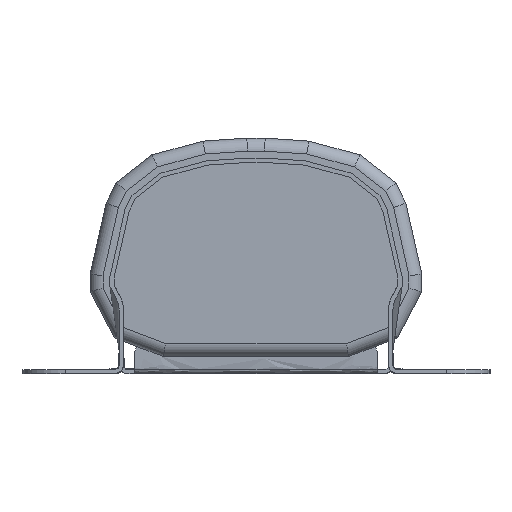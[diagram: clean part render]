
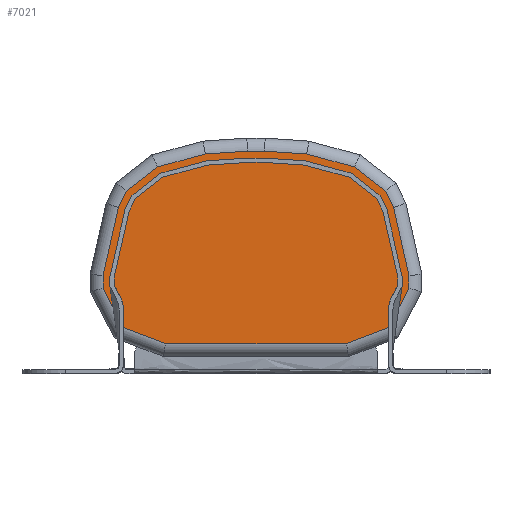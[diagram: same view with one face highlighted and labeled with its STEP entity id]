
A CAD part, left-side view. The second image highlights one B-rep face of the part: STEP entity #7021.
In plain terms, the highlighted planar face has unit normal (-1, 0, 0).
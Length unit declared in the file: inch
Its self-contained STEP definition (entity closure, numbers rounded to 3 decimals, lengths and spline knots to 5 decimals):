
#149 = LINE ( 'NONE', #11969, #13729 ) ;
#277 = VERTEX_POINT ( 'NONE', #6612 ) ;
#442 = VECTOR ( 'NONE', #6973, 39.37008 ) ;
#476 = VECTOR ( 'NONE', #3384, 39.37008 ) ;
#599 = VECTOR ( 'NONE', #13623, 39.37008 ) ;
#608 = CARTESIAN_POINT ( 'NONE',  ( -5.87598, -0.62503, 0.75579 ) ) ;
#618 = VERTEX_POINT ( 'NONE', #3447 ) ;
#942 = CARTESIAN_POINT ( 'NONE',  ( -5.87598, -0.58838, 0.83044 ) ) ;
#945 = VECTOR ( 'NONE', #12548, 39.37008 ) ;
#1011 = VERTEX_POINT ( 'NONE', #3502 ) ;
#1043 = VERTEX_POINT ( 'NONE', #3958 ) ;
#1069 = CARTESIAN_POINT ( 'NONE',  ( -5.87598, 0.03945, 1.01181 ) ) ;
#1125 = AXIS2_PLACEMENT_3D ( 'NONE', #4103, #11574, #5194 ) ;
#1499 = LINE ( 'NONE', #8761, #12572 ) ;
#1529 = ORIENTED_EDGE ( 'NONE', *, *, #7533, .F. ) ;
#2062 = VECTOR ( 'NONE', #5227, 39.37008 ) ;
#2063 = ORIENTED_EDGE ( 'NONE', *, *, #8441, .F. ) ;
#2277 = EDGE_CURVE ( 'NONE', #8513, #5234, #8156, .T. ) ;
#2516 = LINE ( 'NONE', #9280, #8262 ) ;
#2569 = EDGE_CURVE ( 'NONE', #277, #1011, #7667, .T. ) ;
#2647 = VECTOR ( 'NONE', #8229, 39.37008 ) ;
#2750 = CARTESIAN_POINT ( 'NONE',  ( -5.87598, -0.34107, 0.96888 ) ) ;
#2782 = EDGE_CURVE ( 'NONE', #6929, #13272, #149, .T. ) ;
#2801 = VERTEX_POINT ( 'NONE', #3345 ) ;
#3008 = PLANE ( 'NONE',  #1125 ) ;
#3258 = EDGE_CURVE ( 'NONE', #12526, #9553, #9781, .T. ) ;
#3345 = CARTESIAN_POINT ( 'NONE',  ( -5.87598, -0.44609, 0.94037 ) ) ;
#3366 = LINE ( 'NONE', #6872, #442 ) ;
#3384 = DIRECTION ( 'NONE',  ( 0., 0.935, -0.355 ) ) ;
#3391 = CARTESIAN_POINT ( 'NONE',  ( -5.87598, 0.69488, 0.38854 ) ) ;
#3402 = DIRECTION ( 'NONE',  ( 0., -1., 0. ) ) ;
#3421 = ORIENTED_EDGE ( 'NONE', *, *, #4417, .F. ) ;
#3423 = EDGE_CURVE ( 'NONE', #6635, #618, #5233, .T. ) ;
#3447 = CARTESIAN_POINT ( 'NONE',  ( -5.87598, -0.23037, 0.99893 ) ) ;
#3502 = CARTESIAN_POINT ( 'NONE',  ( -5.87598, 0.44609, 0.94037 ) ) ;
#3619 = VERTEX_POINT ( 'NONE', #4553 ) ;
#3667 = VERTEX_POINT ( 'NONE', #9637 ) ;
#3669 = LINE ( 'NONE', #10152, #9035 ) ;
#3758 = CARTESIAN_POINT ( 'NONE',  ( -5.87598, 0.69488, 0.41339 ) ) ;
#3781 = DIRECTION ( 'NONE',  ( 0., -0.441, -0.898 ) ) ;
#3823 = ORIENTED_EDGE ( 'NONE', *, *, #3997, .F. ) ;
#3888 = ORIENTED_EDGE ( 'NONE', *, *, #12115, .F. ) ;
#3898 = VECTOR ( 'NONE', #10235, 39.37008 ) ;
#3958 = CARTESIAN_POINT ( 'NONE',  ( -5.87598, 0.69488, 0.44618 ) ) ;
#3997 = EDGE_CURVE ( 'NONE', #5234, #8527, #8083, .T. ) ;
#4103 = CARTESIAN_POINT ( 'NONE',  ( -5.87598, -0.69488, 0.1378 ) ) ;
#4175 = CARTESIAN_POINT ( 'NONE',  ( -5.87598, 0.65992, 0.60117 ) ) ;
#4222 = CARTESIAN_POINT ( 'NONE',  ( -5.87598, -0.60522, 0.79615 ) ) ;
#4332 = ORIENTED_EDGE ( 'NONE', *, *, #3423, .F. ) ;
#4417 = EDGE_CURVE ( 'NONE', #3667, #277, #3669, .T. ) ;
#4449 = DIRECTION ( 'NONE',  ( 0., -0.998, 0.067 ) ) ;
#4503 = EDGE_CURVE ( 'NONE', #8236, #3619, #5889, .T. ) ;
#4553 = CARTESIAN_POINT ( 'NONE',  ( -5.87598, 0.60161, 0.21046 ) ) ;
#4711 = ORIENTED_EDGE ( 'NONE', *, *, #13595, .F. ) ;
#5162 = CARTESIAN_POINT ( 'NONE',  ( -5.87598, -0.69488, 0.41339 ) ) ;
#5194 = DIRECTION ( 'NONE',  ( 0., 0., 1. ) ) ;
#5227 = DIRECTION ( 'NONE',  ( 0., 0., -1. ) ) ;
#5233 = LINE ( 'NONE', #13223, #10891 ) ;
#5234 = VERTEX_POINT ( 'NONE', #12415 ) ;
#5255 = ORIENTED_EDGE ( 'NONE', *, *, #2277, .F. ) ;
#5390 = EDGE_LOOP ( 'NONE', ( #8227, #1529, #13517, #3823, #5255, #9919, #13301, #12085, #4711, #4332, #12256, #8036, #2063, #7243, #3421, #9745, #9950, #3888 ) ) ;
#5516 = FACE_OUTER_BOUND ( 'NONE', #5390, .T. ) ;
#5889 = LINE ( 'NONE', #7027, #2647 ) ;
#6050 = CARTESIAN_POINT ( 'NONE',  ( -5.87598, -0.03944, 1.01181 ) ) ;
#6612 = CARTESIAN_POINT ( 'NONE',  ( -5.87598, 0.58838, 0.83044 ) ) ;
#6618 = VECTOR ( 'NONE', #13733, 39.37008 ) ;
#6635 = VERTEX_POINT ( 'NONE', #6050 ) ;
#6872 = CARTESIAN_POINT ( 'NONE',  ( -5.87598, -0.65992, 0.60117 ) ) ;
#6913 = VERTEX_POINT ( 'NONE', #3391 ) ;
#6929 = VERTEX_POINT ( 'NONE', #13030 ) ;
#6973 = DIRECTION ( 'NONE',  ( 0., -0.22, -0.975 ) ) ;
#7021 = ADVANCED_FACE ( 'NONE', ( #5516 ), #3008, .T. ) ;
#7027 = CARTESIAN_POINT ( 'NONE',  ( -5.87598, 0.51143, 0.17618 ) ) ;
#7031 = DIRECTION ( 'NONE',  ( 0., 0., 1. ) ) ;
#7243 = ORIENTED_EDGE ( 'NONE', *, *, #2569, .F. ) ;
#7408 = EDGE_CURVE ( 'NONE', #6913, #1043, #9917, .T. ) ;
#7533 = EDGE_CURVE ( 'NONE', #10892, #8236, #2516, .T. ) ;
#7667 = LINE ( 'NONE', #12270, #12938 ) ;
#8036 = ORIENTED_EDGE ( 'NONE', *, *, #2782, .F. ) ;
#8083 = LINE ( 'NONE', #13755, #11199 ) ;
#8156 = LINE ( 'NONE', #5162, #2062 ) ;
#8227 = ORIENTED_EDGE ( 'NONE', *, *, #4503, .F. ) ;
#8229 = DIRECTION ( 'NONE',  ( 0., 0.935, 0.355 ) ) ;
#8236 = VERTEX_POINT ( 'NONE', #11147 ) ;
#8262 = VECTOR ( 'NONE', #10334, 39.37008 ) ;
#8264 = EDGE_CURVE ( 'NONE', #9553, #8513, #3366, .T. ) ;
#8434 = CARTESIAN_POINT ( 'NONE',  ( -5.87598, -0.69488, 0.44618 ) ) ;
#8441 = EDGE_CURVE ( 'NONE', #1011, #6929, #9560, .T. ) ;
#8482 = EDGE_CURVE ( 'NONE', #2801, #12526, #12047, .T. ) ;
#8513 = VERTEX_POINT ( 'NONE', #8434 ) ;
#8527 = VERTEX_POINT ( 'NONE', #9483 ) ;
#8742 = CARTESIAN_POINT ( 'NONE',  ( -5.87598, -0.51143, 0.17618 ) ) ;
#8761 = CARTESIAN_POINT ( 'NONE',  ( -5.87598, 0., 1.01181 ) ) ;
#9035 = VECTOR ( 'NONE', #11227, 39.37008 ) ;
#9237 = VECTOR ( 'NONE', #7031, 39.37008 ) ;
#9263 = LINE ( 'NONE', #13877, #11774 ) ;
#9280 = CARTESIAN_POINT ( 'NONE',  ( -5.87598, 0., 0.1378 ) ) ;
#9483 = CARTESIAN_POINT ( 'NONE',  ( -5.87598, -0.60161, 0.21046 ) ) ;
#9553 = VERTEX_POINT ( 'NONE', #608 ) ;
#9560 = LINE ( 'NONE', #11479, #945 ) ;
#9637 = CARTESIAN_POINT ( 'NONE',  ( -5.87598, 0.62503, 0.75579 ) ) ;
#9745 = ORIENTED_EDGE ( 'NONE', *, *, #13824, .F. ) ;
#9764 = LINE ( 'NONE', #4175, #6618 ) ;
#9781 = LINE ( 'NONE', #4222, #12258 ) ;
#9917 = LINE ( 'NONE', #3758, #9237 ) ;
#9919 = ORIENTED_EDGE ( 'NONE', *, *, #8264, .F. ) ;
#9950 = ORIENTED_EDGE ( 'NONE', *, *, #7408, .F. ) ;
#10061 = EDGE_CURVE ( 'NONE', #13272, #6635, #1499, .T. ) ;
#10152 = CARTESIAN_POINT ( 'NONE',  ( -5.87598, 0.60522, 0.79615 ) ) ;
#10235 = DIRECTION ( 'NONE',  ( 0., -0.965, -0.262 ) ) ;
#10334 = DIRECTION ( 'NONE',  ( 0., 1., 0. ) ) ;
#10891 = VECTOR ( 'NONE', #13360, 39.37008 ) ;
#10892 = VERTEX_POINT ( 'NONE', #12605 ) ;
#11147 = CARTESIAN_POINT ( 'NONE',  ( -5.87598, 0.41045, 0.1378 ) ) ;
#11199 = VECTOR ( 'NONE', #12906, 39.37008 ) ;
#11227 = DIRECTION ( 'NONE',  ( 0., -0.441, 0.898 ) ) ;
#11479 = CARTESIAN_POINT ( 'NONE',  ( -5.87598, 0.34107, 0.96888 ) ) ;
#11574 = DIRECTION ( 'NONE',  ( -1., 0., 0. ) ) ;
#11774 = VECTOR ( 'NONE', #12829, 39.37008 ) ;
#11924 = LINE ( 'NONE', #8742, #476 ) ;
#11969 = CARTESIAN_POINT ( 'NONE',  ( -5.87598, 0.13684, 1.00524 ) ) ;
#12047 = LINE ( 'NONE', #12595, #599 ) ;
#12080 = LINE ( 'NONE', #2750, #3898 ) ;
#12085 = ORIENTED_EDGE ( 'NONE', *, *, #8482, .F. ) ;
#12115 = EDGE_CURVE ( 'NONE', #3619, #6913, #9263, .T. ) ;
#12256 = ORIENTED_EDGE ( 'NONE', *, *, #10061, .F. ) ;
#12258 = VECTOR ( 'NONE', #3781, 39.37008 ) ;
#12270 = CARTESIAN_POINT ( 'NONE',  ( -5.87598, 0.51801, 0.8848 ) ) ;
#12415 = CARTESIAN_POINT ( 'NONE',  ( -5.87598, -0.69488, 0.38854 ) ) ;
#12526 = VERTEX_POINT ( 'NONE', #942 ) ;
#12548 = DIRECTION ( 'NONE',  ( 0., -0.965, 0.262 ) ) ;
#12552 = DIRECTION ( 'NONE',  ( 0., -0.791, 0.611 ) ) ;
#12572 = VECTOR ( 'NONE', #3402, 39.37008 ) ;
#12595 = CARTESIAN_POINT ( 'NONE',  ( -5.87598, -0.51801, 0.8848 ) ) ;
#12605 = CARTESIAN_POINT ( 'NONE',  ( -5.87598, -0.41045, 0.1378 ) ) ;
#12829 = DIRECTION ( 'NONE',  ( 0., 0.464, 0.886 ) ) ;
#12906 = DIRECTION ( 'NONE',  ( 0., 0.464, -0.886 ) ) ;
#12938 = VECTOR ( 'NONE', #12552, 39.37008 ) ;
#13030 = CARTESIAN_POINT ( 'NONE',  ( -5.87598, 0.23037, 0.99893 ) ) ;
#13223 = CARTESIAN_POINT ( 'NONE',  ( -5.87598, -0.13684, 1.00524 ) ) ;
#13272 = VERTEX_POINT ( 'NONE', #1069 ) ;
#13301 = ORIENTED_EDGE ( 'NONE', *, *, #3258, .F. ) ;
#13342 = EDGE_CURVE ( 'NONE', #8527, #10892, #11924, .T. ) ;
#13360 = DIRECTION ( 'NONE',  ( 0., -0.998, -0.067 ) ) ;
#13517 = ORIENTED_EDGE ( 'NONE', *, *, #13342, .F. ) ;
#13595 = EDGE_CURVE ( 'NONE', #618, #2801, #12080, .T. ) ;
#13623 = DIRECTION ( 'NONE',  ( 0., -0.791, -0.611 ) ) ;
#13729 = VECTOR ( 'NONE', #4449, 39.37008 ) ;
#13733 = DIRECTION ( 'NONE',  ( 0., -0.22, 0.975 ) ) ;
#13755 = CARTESIAN_POINT ( 'NONE',  ( -5.87598, -0.64642, 0.29602 ) ) ;
#13824 = EDGE_CURVE ( 'NONE', #1043, #3667, #9764, .T. ) ;
#13877 = CARTESIAN_POINT ( 'NONE',  ( -5.87598, 0.64642, 0.29602 ) ) ;
